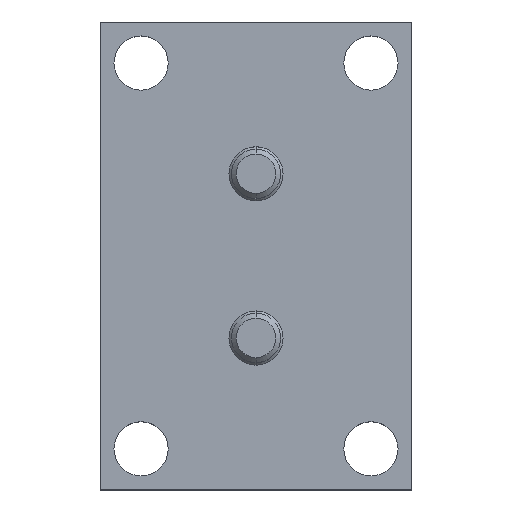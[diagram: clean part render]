
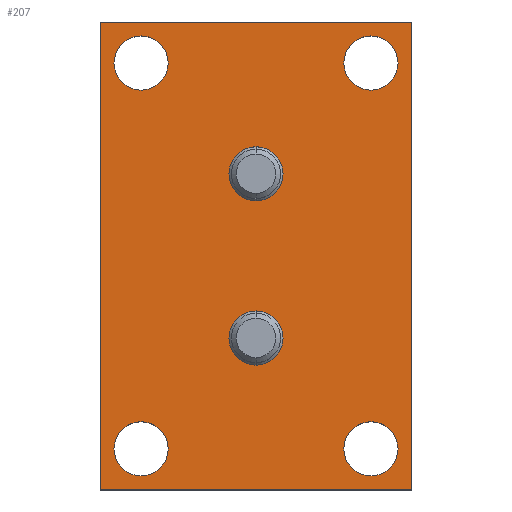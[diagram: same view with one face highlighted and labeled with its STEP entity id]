
A CAD part, top view. The second image highlights one B-rep face of the part: STEP entity #207.
In plain terms, the highlighted planar face has unit normal (0, 0, 1).
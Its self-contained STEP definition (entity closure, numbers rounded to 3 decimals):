
#101=FACE_BOUND('',#331,.T.);
#102=FACE_BOUND('',#332,.T.);
#103=FACE_BOUND('',#333,.T.);
#104=FACE_BOUND('',#334,.T.);
#105=FACE_BOUND('',#335,.T.);
#106=FACE_BOUND('',#336,.T.);
#107=FACE_BOUND('',#337,.T.);
#148=CIRCLE('',#975,3.3);
#150=CIRCLE('',#978,3.3);
#152=CIRCLE('',#981,3.3);
#154=CIRCLE('',#984,3.3);
#156=CIRCLE('',#987,3.3);
#158=CIRCLE('',#990,3.3);
#160=CIRCLE('',#993,3.3);
#162=CIRCLE('',#996,3.3);
#164=CIRCLE('',#999,3.3);
#166=CIRCLE('',#1002,3.3);
#169=CIRCLE('',#1008,3.3);
#170=CIRCLE('',#1009,3.3);
#207=ADVANCED_FACE('',(#101,#102,#103,#104,#105,#106,#107),#247,.T.);
#247=PLANE('',#1010);
#331=EDGE_LOOP('',(#445,#446,#447,#448));
#332=EDGE_LOOP('',(#449,#450));
#333=EDGE_LOOP('',(#451,#452));
#334=EDGE_LOOP('',(#453,#454));
#335=EDGE_LOOP('',(#455,#456));
#336=EDGE_LOOP('',(#457,#458));
#337=EDGE_LOOP('',(#459,#460));
#445=ORIENTED_EDGE('',*,*,#698,.T.);
#446=ORIENTED_EDGE('',*,*,#702,.T.);
#447=ORIENTED_EDGE('',*,*,#705,.T.);
#448=ORIENTED_EDGE('',*,*,#708,.T.);
#449=ORIENTED_EDGE('',*,*,#743,.F.);
#450=ORIENTED_EDGE('',*,*,#744,.F.);
#451=ORIENTED_EDGE('',*,*,#712,.T.);
#452=ORIENTED_EDGE('',*,*,#714,.T.);
#453=ORIENTED_EDGE('',*,*,#718,.T.);
#454=ORIENTED_EDGE('',*,*,#720,.T.);
#455=ORIENTED_EDGE('',*,*,#724,.T.);
#456=ORIENTED_EDGE('',*,*,#726,.T.);
#457=ORIENTED_EDGE('',*,*,#730,.T.);
#458=ORIENTED_EDGE('',*,*,#732,.T.);
#459=ORIENTED_EDGE('',*,*,#735,.T.);
#460=ORIENTED_EDGE('',*,*,#738,.T.);
#622=VERTEX_POINT('',#1339);
#623=VERTEX_POINT('',#1341);
#626=VERTEX_POINT('',#1348);
#628=VERTEX_POINT('',#1354);
#630=VERTEX_POINT('',#1363);
#632=VERTEX_POINT('',#1367);
#634=VERTEX_POINT('',#1375);
#636=VERTEX_POINT('',#1379);
#638=VERTEX_POINT('',#1387);
#640=VERTEX_POINT('',#1391);
#642=VERTEX_POINT('',#1399);
#644=VERTEX_POINT('',#1403);
#647=VERTEX_POINT('',#1413);
#648=VERTEX_POINT('',#1415);
#651=VERTEX_POINT('',#1430);
#652=VERTEX_POINT('',#1431);
#698=EDGE_CURVE('',#623,#622,#818,.T.);
#702=EDGE_CURVE('',#622,#626,#822,.T.);
#705=EDGE_CURVE('',#626,#628,#825,.T.);
#708=EDGE_CURVE('',#628,#623,#828,.T.);
#712=EDGE_CURVE('',#630,#632,#148,.T.);
#714=EDGE_CURVE('',#632,#630,#150,.T.);
#718=EDGE_CURVE('',#634,#636,#152,.T.);
#720=EDGE_CURVE('',#636,#634,#154,.T.);
#724=EDGE_CURVE('',#638,#640,#156,.T.);
#726=EDGE_CURVE('',#640,#638,#158,.T.);
#730=EDGE_CURVE('',#642,#644,#160,.T.);
#732=EDGE_CURVE('',#644,#642,#162,.T.);
#735=EDGE_CURVE('',#648,#647,#164,.T.);
#738=EDGE_CURVE('',#647,#648,#166,.T.);
#743=EDGE_CURVE('',#651,#652,#169,.T.);
#744=EDGE_CURVE('',#652,#651,#170,.T.);
#818=LINE('',#1340,#894);
#822=LINE('',#1349,#898);
#825=LINE('',#1355,#901);
#828=LINE('',#1359,#904);
#894=VECTOR('',#1069,1.);
#898=VECTOR('',#1075,1.);
#901=VECTOR('',#1080,1.);
#904=VECTOR('',#1085,1.);
#975=AXIS2_PLACEMENT_3D('',#1368,#1092,#1093);
#978=AXIS2_PLACEMENT_3D('',#1371,#1098,#1099);
#981=AXIS2_PLACEMENT_3D('',#1380,#1106,#1107);
#984=AXIS2_PLACEMENT_3D('',#1383,#1112,#1113);
#987=AXIS2_PLACEMENT_3D('',#1392,#1120,#1121);
#990=AXIS2_PLACEMENT_3D('',#1395,#1126,#1127);
#993=AXIS2_PLACEMENT_3D('',#1404,#1134,#1135);
#996=AXIS2_PLACEMENT_3D('',#1407,#1140,#1141);
#999=AXIS2_PLACEMENT_3D('',#1414,#1147,#1148);
#1002=AXIS2_PLACEMENT_3D('',#1419,#1154,#1155);
#1008=AXIS2_PLACEMENT_3D('',#1429,#1168,#1169);
#1009=AXIS2_PLACEMENT_3D('',#1432,#1170,#1171);
#1010=AXIS2_PLACEMENT_3D('',#1433,#1172,#1173);
#1069=DIRECTION('',(0.,-1.,0.));
#1075=DIRECTION('',(1.,0.,0.));
#1080=DIRECTION('',(0.,1.,0.));
#1085=DIRECTION('',(-1.,0.,0.));
#1092=DIRECTION('',(0.,0.,-1.));
#1093=DIRECTION('',(-1.,0.,0.));
#1098=DIRECTION('',(0.,0.,-1.));
#1099=DIRECTION('',(1.,0.,0.));
#1106=DIRECTION('',(0.,0.,-1.));
#1107=DIRECTION('',(-1.,0.,0.));
#1112=DIRECTION('',(0.,0.,-1.));
#1113=DIRECTION('',(1.,0.,0.));
#1120=DIRECTION('',(0.,0.,-1.));
#1121=DIRECTION('',(-1.,0.,0.));
#1126=DIRECTION('',(0.,0.,-1.));
#1127=DIRECTION('',(1.,0.,0.));
#1134=DIRECTION('',(0.,0.,-1.));
#1135=DIRECTION('',(-1.,0.,0.));
#1140=DIRECTION('',(0.,0.,-1.));
#1141=DIRECTION('',(1.,0.,0.));
#1147=DIRECTION('',(0.,0.,-1.));
#1148=DIRECTION('',(-1.,0.,0.));
#1154=DIRECTION('',(0.,0.,-1.));
#1155=DIRECTION('',(1.,0.,0.));
#1168=DIRECTION('',(0.,0.,1.));
#1169=DIRECTION('',(-1.,0.,0.));
#1170=DIRECTION('',(0.,0.,1.));
#1171=DIRECTION('',(1.,0.,0.));
#1172=DIRECTION('',(0.,0.,1.));
#1173=DIRECTION('',(-1.,0.,0.));
#1339=CARTESIAN_POINT('',(-19.,-28.5,9.));
#1340=CARTESIAN_POINT('',(-19.,28.5,9.));
#1341=CARTESIAN_POINT('',(-19.,28.5,9.));
#1348=CARTESIAN_POINT('',(19.,-28.5,9.));
#1349=CARTESIAN_POINT('',(-19.,-28.5,9.));
#1354=CARTESIAN_POINT('',(19.,28.5,9.));
#1355=CARTESIAN_POINT('',(19.,28.5,9.));
#1359=CARTESIAN_POINT('',(-19.,28.5,9.));
#1363=CARTESIAN_POINT('',(14.,26.8,9.));
#1367=CARTESIAN_POINT('',(14.,20.2,9.));
#1368=CARTESIAN_POINT('',(14.,23.5,9.));
#1371=CARTESIAN_POINT('',(14.,23.5,9.));
#1375=CARTESIAN_POINT('',(-14.,26.8,9.));
#1379=CARTESIAN_POINT('',(-14.,20.2,9.));
#1380=CARTESIAN_POINT('',(-14.,23.5,9.));
#1383=CARTESIAN_POINT('',(-14.,23.5,9.));
#1387=CARTESIAN_POINT('',(-14.,-20.2,9.));
#1391=CARTESIAN_POINT('',(-14.,-26.8,9.));
#1392=CARTESIAN_POINT('',(-14.,-23.5,9.));
#1395=CARTESIAN_POINT('',(-14.,-23.5,9.));
#1399=CARTESIAN_POINT('',(14.,-20.2,9.));
#1403=CARTESIAN_POINT('',(14.,-26.8,9.));
#1404=CARTESIAN_POINT('',(14.,-23.5,9.));
#1407=CARTESIAN_POINT('',(14.,-23.5,9.));
#1413=CARTESIAN_POINT('',(0.,6.7,9.));
#1414=CARTESIAN_POINT('',(0.,10.,9.));
#1415=CARTESIAN_POINT('',(0.,13.3,9.));
#1419=CARTESIAN_POINT('',(0.,10.,9.));
#1429=CARTESIAN_POINT('',(0.,-10.,9.));
#1430=CARTESIAN_POINT('',(0.,-13.3,9.));
#1431=CARTESIAN_POINT('',(0.,-6.7,9.));
#1432=CARTESIAN_POINT('',(0.,-10.,9.));
#1433=CARTESIAN_POINT('',(-19.,28.5,9.));
